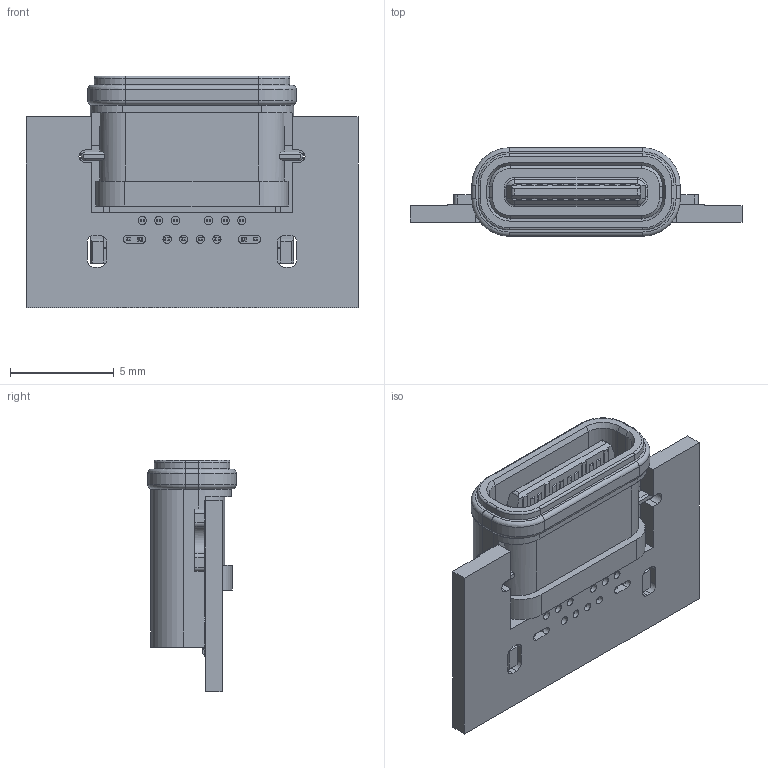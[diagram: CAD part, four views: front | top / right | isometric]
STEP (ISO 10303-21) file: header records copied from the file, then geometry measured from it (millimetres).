
FILE_DESCRIPTION(/* description */ (''),/* implementation_level */ '2;1');
FILE_NAME(/* name */ 'a901_stp.stp',/* time_stamp */ '2021-03-06T14:40:34+08:00',/* author */ (''),/* organization */ (''),/* preprocessor_version */ 'ST-DEVELOPER v16',/* originating_system */ 'SIEMENS PLM Software NX 10.0',/* authorisation */ '');
FILE_SCHEMA (('AUTOMOTIVE_DESIGN { 1 0 10303 214 3 1 1 1 }'));
Length unit declared in the file: millimetre
Products named in the file (1): xue6E841D37jbgr
Bounding box: 16 x 4.26 x 11.15 mm (x, y, z)
Volume: 267 mm3; surface area: 912.3 mm2
Topology: 2 solids, 60 shells, 1587 faces, 4129 edges, 2709 vertices
Faces by surface type: plane 1284, cylinder 245, torus 32, cone 26
Full cylindrical faces by diameter (mm): 0.4 x10, 0.65 x10
Entity records: 55245 total; most frequent: CARTESIAN_POINT 9140, ORIENTED_EDGE 8198, DIRECTION 7676, EDGE_CURVE 4099, LINE 3342, VECTOR 3342, VERTEX_POINT 2699, AXIS2_PLACEMENT_3D 2167
